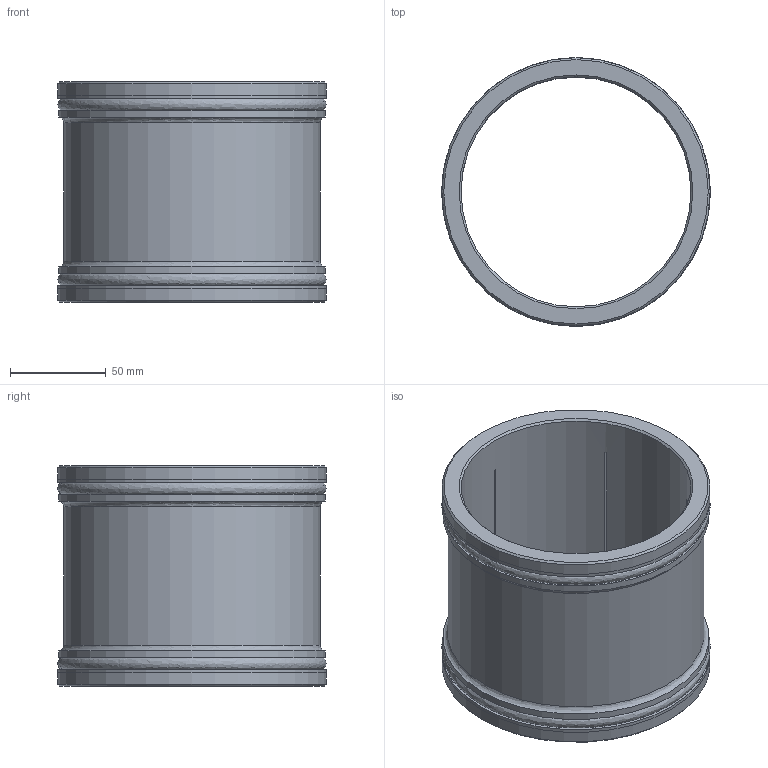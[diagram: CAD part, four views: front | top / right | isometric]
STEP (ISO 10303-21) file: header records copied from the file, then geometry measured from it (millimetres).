
FILE_DESCRIPTION((''),'2;1');
FILE_NAME('N:\CAD\ARCHIV\5350 (-999)\Standardhülsen\5350.120.115\Klemmhülse 5350.120.115.stp','2010-01-20T15:13:45',('sschwock'),(''),'Autodesk Inventor 2009','Autodesk Inventor 2009','');
FILE_SCHEMA(('AUTOMOTIVE_DESIGN { 1 0 10303 214 1 1 1 1 }'));
Length unit declared in the file: millimetre
Products named in the file (5): Klemmhülse 5350.120.115; Klemmhülse; POM; Stützring; O-Ring
Assembly tree (6 placements, depth 2):
  Klemmhülse 5350.120.115
    Klemmhülse
    POM
    Stützring  x2
    O-Ring  x2
Bounding box: 140 x 140 x 115 mm (x, y, z)
Volume: 360672.1 mm3; surface area: 219457.6 mm2
Topology: 6 solids, 6 shells, 58 faces, 135 edges, 88 vertices
Faces by surface type: cylinder 26, plane 24, cone 4, bspline 4
Full cylindrical faces by diameter (mm): 120 x1, 128 x2, 130.7 x4, 134 x1, 139 x2, 140 x4
Entity records: 1769 total; most frequent: CARTESIAN_POINT 447, DIRECTION 254, ORIENTED_EDGE 204, AXIS2_PLACEMENT_3D 115, EDGE_CURVE 102, EDGE_LOOP 93, VERTEX_POINT 77, CIRCLE 53
